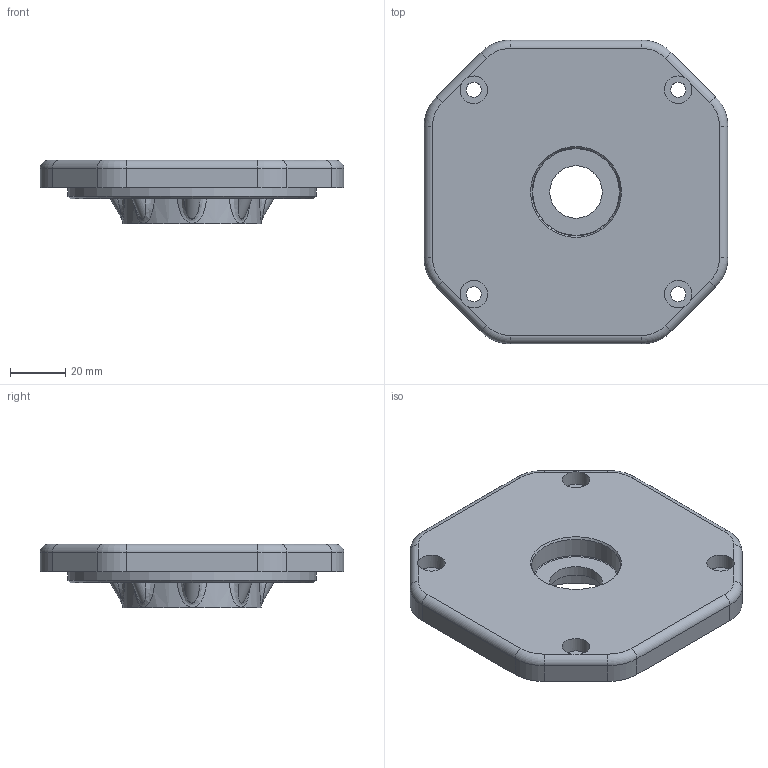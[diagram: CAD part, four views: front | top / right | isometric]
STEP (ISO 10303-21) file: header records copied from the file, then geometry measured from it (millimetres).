
FILE_DESCRIPTION(/* description */ (''),/* implementation_level */ '2;1');
FILE_NAME(/* name */ '',/* time_stamp */ '2026-01-30T14:34:35+09:00',/* author */ ('jhkim'),/* organization */ (''),/* preprocessor_version */ 'ST-DEVELOPER v20.1',/* originating_system */ 'Autodesk Inventor 2026',/* authorisation */ '');
FILE_SCHEMA (('AUTOMOTIVE_DESIGN { 1 0 10303 214 3 1 1 }'));
Length unit declared in the file: millimetre
Products named in the file (1): 웜 휠 커버
Bounding box: 110 x 110 x 23 mm (x, y, z)
Volume: 103773.7 mm3; surface area: 33384.4 mm2
Topology: 1 solids, 1 shells, 158 faces, 357 edges, 206 vertices
Faces by surface type: cylinder 70, plane 35, torus 19, bspline 16, sphere 16, cone 2
Full cylindrical faces by diameter (mm): 5.5 x4, 10 x4, 19 x1, 32 x1, 40 x1, 50 x1, 80 x1, 90 x1
Entity records: 5537 total; most frequent: CARTESIAN_POINT 1897, DIRECTION 818, ORIENTED_EDGE 714, EDGE_CURVE 357, AXIS2_PLACEMENT_3D 339, VERTEX_POINT 206, CIRCLE 180, EDGE_LOOP 173
